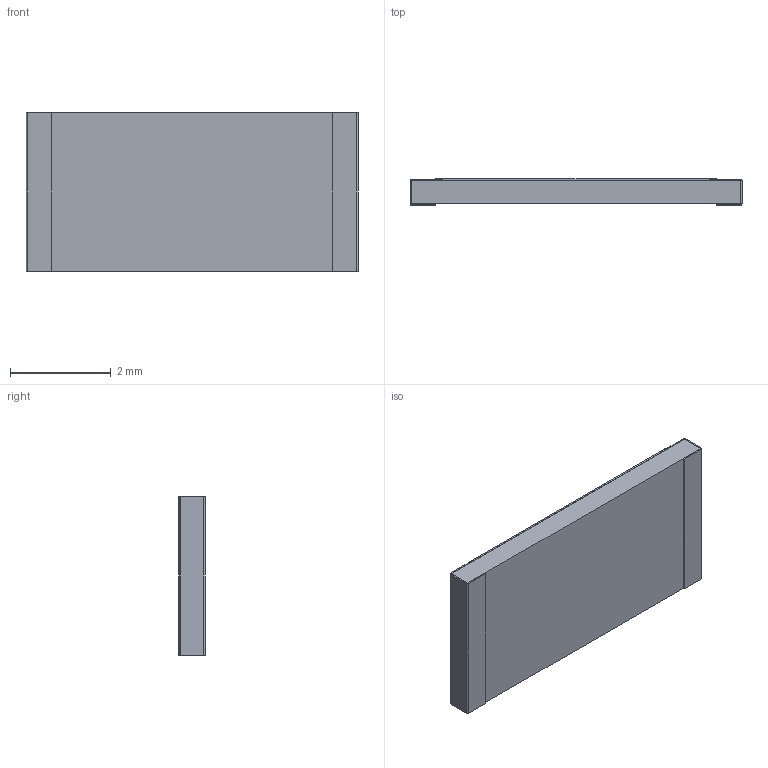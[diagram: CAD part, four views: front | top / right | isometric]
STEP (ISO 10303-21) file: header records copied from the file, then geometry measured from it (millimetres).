
FILE_DESCRIPTION(/* description */ (''),/* implementation_level */ '2;1');
FILE_NAME(/* name */ 'C:\Users\Public\Documents\Autodesk\Inventor LT 2014\Workspace\Vishay\STEP Files\PTN2512.stp',/* time_stamp */ '2020-01-08T14:51:51-06:00',/* author */ ('Neil'),/* organization */ (''),/* preprocessor_version */ 'ST-DEVELOPER v15.2',/* originating_system */ 'Autodesk Inventor LT ',/* authorisation */ '');
FILE_SCHEMA (('AUTOMOTIVE_DESIGN { 1 0 10303 214 3 1 1 }'));
Length unit declared in the file: inch
Products named in the file (1): PTN2512
Bounding box: 6.58 x 0.52 x 3.15 mm (x, y, z)
Volume: 10.2 mm3; surface area: 130.5 mm2
Topology: 5 solids, 5 shells, 98 faces, 264 edges, 176 vertices
Faces by surface type: plane 82, cylinder 16
Entity records: 3090 total; most frequent: CARTESIAN_POINT 539, ORIENTED_EDGE 528, DIRECTION 494, EDGE_CURVE 264, LINE 232, VECTOR 232, VERTEX_POINT 176, AXIS2_PLACEMENT_3D 131
